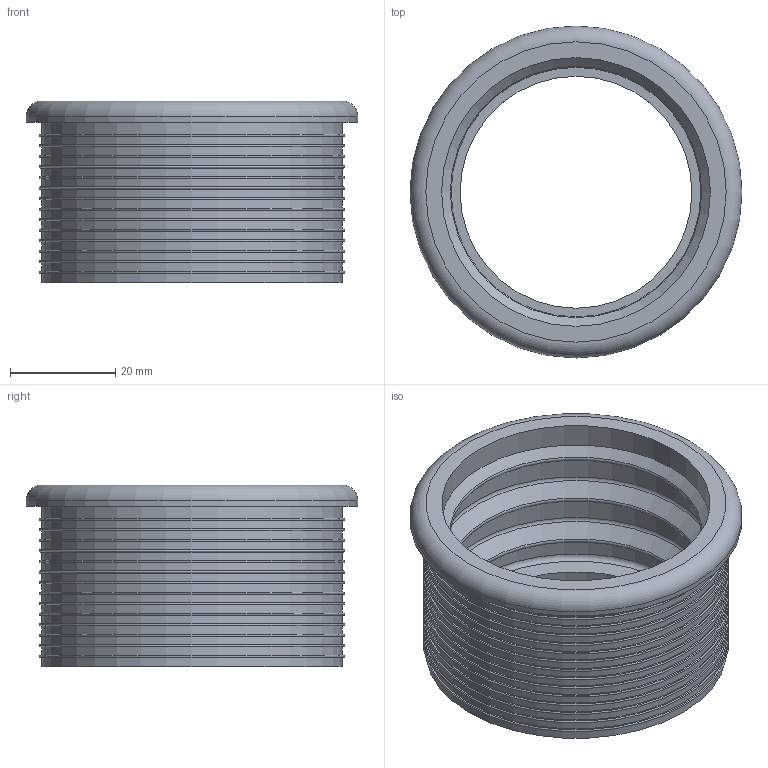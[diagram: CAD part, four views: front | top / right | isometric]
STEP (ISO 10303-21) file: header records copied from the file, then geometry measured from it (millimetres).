
FILE_DESCRIPTION(/* description */ (''),/* implementation_level */ '2;1');
FILE_NAME(/* name */ 'H:\Geberit-Teile\Export\Manschetten 152.6xx\stp\152693.stp',/* time_stamp */ '2016-07-27T14:30:24+02:00',/* author */ ('seihe2'),/* organization */ (''),/* preprocessor_version */ 'ST-DEVELOPER v15.2',/* originating_system */ 'Autodesk Inventor 2014',/* authorisation */ '');
FILE_SCHEMA (('AUTOMOTIVE_DESIGN { 1 0 10303 214 3 1 1 }'));
Length unit declared in the file: millimetre
Products named in the file (1): 152693
Bounding box: 63 x 63 x 34.5 mm (x, y, z)
Volume: 19249 mm3; surface area: 19037.6 mm2
Topology: 1 solids, 1 shells, 83 faces, 136 edges, 85 vertices
Faces by surface type: plane 32, torus 24, cylinder 21, cone 6
Full cylindrical faces by diameter (mm): 44 x1, 51 x1, 53 x3, 57 x15, 63 x1
Entity records: 1775 total; most frequent: DIRECTION 334, CARTESIAN_POINT 250, AXIS2_PLACEMENT_3D 167, EDGE_LOOP 166, ORIENTED_EDGE 166, FACE_BOUND 99, STYLED_ITEM 84, CIRCLE 83
